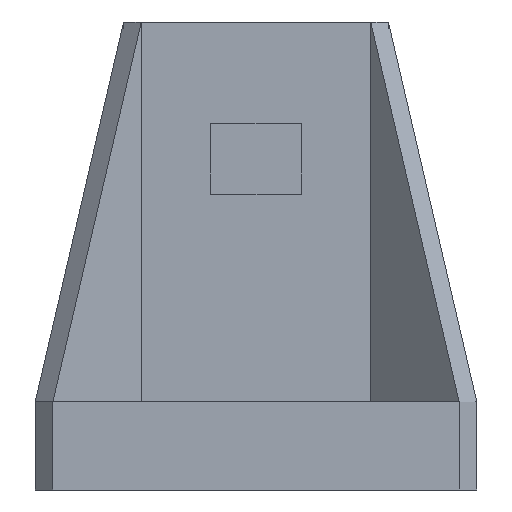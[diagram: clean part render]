
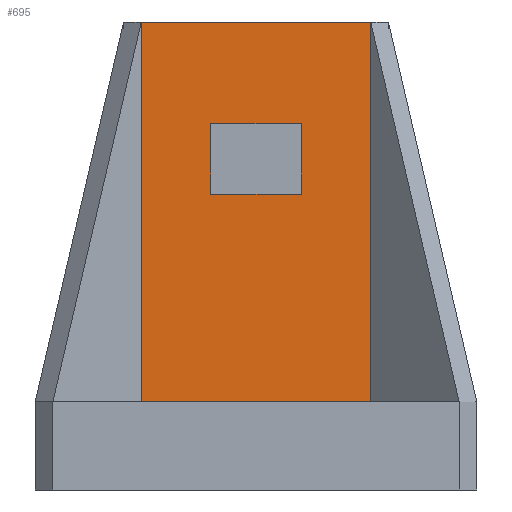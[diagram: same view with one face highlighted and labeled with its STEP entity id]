
A CAD part, front view. The second image highlights one B-rep face of the part: STEP entity #695.
In plain terms, the highlighted planar face has unit normal (0, -1, 0).
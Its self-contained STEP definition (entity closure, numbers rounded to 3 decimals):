
#299=CARTESIAN_POINT('',(12.,10.,43.));
#300=VERTEX_POINT('',#299);
#307=CARTESIAN_POINT('',(38.,10.,43.));
#308=VERTEX_POINT('',#307);
#309=CARTESIAN_POINT('',(12.,10.,43.));
#310=DIRECTION('',(1.,0.,0.));
#311=VECTOR('',#310,26.);
#312=LINE('',#309,#311);
#313=EDGE_CURVE('',#300,#308,#312,.T.);
#487=CARTESIAN_POINT('',(12.,10.,0.));
#488=VERTEX_POINT('',#487);
#495=CARTESIAN_POINT('',(12.,10.,43.));
#496=DIRECTION('',(0.,0.,-1.));
#497=VECTOR('',#496,43.);
#498=LINE('',#495,#497);
#499=EDGE_CURVE('',#300,#488,#498,.T.);
#600=CARTESIAN_POINT('',(38.,10.,0.));
#601=VERTEX_POINT('',#600);
#608=CARTESIAN_POINT('',(12.,10.,0.));
#609=DIRECTION('',(1.,0.,0.));
#610=VECTOR('',#609,26.);
#611=LINE('',#608,#610);
#612=EDGE_CURVE('',#488,#601,#611,.T.);
#637=CARTESIAN_POINT('',(18.5,10.,43.));
#638=DIRECTION('',(-0.,1.,0.));
#639=DIRECTION('',(-1.,-0.,0.));
#640=AXIS2_PLACEMENT_3D('',#637,#638,#639);
#641=PLANE('',#640);
#642=CARTESIAN_POINT('',(19.9,10.,23.5));
#643=VERTEX_POINT('',#642);
#644=CARTESIAN_POINT('',(30.1,10.,23.5));
#645=VERTEX_POINT('',#644);
#646=CARTESIAN_POINT('',(19.9,10.,23.5));
#647=DIRECTION('',(1.,0.,0.));
#648=VECTOR('',#647,10.2);
#649=LINE('',#646,#648);
#650=EDGE_CURVE('',#643,#645,#649,.T.);
#651=ORIENTED_EDGE('',*,*,#650,.F.);
#652=CARTESIAN_POINT('',(19.9,10.,31.5));
#653=VERTEX_POINT('',#652);
#654=CARTESIAN_POINT('',(19.9,10.,31.5));
#655=DIRECTION('',(0.,0.,-1.));
#656=VECTOR('',#655,8.);
#657=LINE('',#654,#656);
#658=EDGE_CURVE('',#653,#643,#657,.T.);
#659=ORIENTED_EDGE('',*,*,#658,.F.);
#660=CARTESIAN_POINT('',(30.1,10.,31.5));
#661=VERTEX_POINT('',#660);
#662=CARTESIAN_POINT('',(30.1,10.,31.5));
#663=DIRECTION('',(-1.,-0.,0.));
#664=VECTOR('',#663,10.2);
#665=LINE('',#662,#664);
#666=EDGE_CURVE('',#661,#653,#665,.T.);
#667=ORIENTED_EDGE('',*,*,#666,.F.);
#668=CARTESIAN_POINT('',(30.1,10.,23.5));
#669=DIRECTION('',(0.,0.,1.));
#670=VECTOR('',#669,8.);
#671=LINE('',#668,#670);
#672=EDGE_CURVE('',#645,#661,#671,.T.);
#673=ORIENTED_EDGE('',*,*,#672,.F.);
#674=EDGE_LOOP('',(#651,#659,#667,#673));
#675=FACE_BOUND('',#674,.T.);
#676=ORIENTED_EDGE('',*,*,#313,.F.);
#677=ORIENTED_EDGE('',*,*,#499,.T.);
#678=ORIENTED_EDGE('',*,*,#612,.T.);
#679=CARTESIAN_POINT('',(38.,10.,43.));
#680=VERTEX_POINT('',#679);
#681=CARTESIAN_POINT('',(38.,10.,43.));
#682=DIRECTION('',(0.,0.,-1.));
#683=VECTOR('',#682,43.);
#684=LINE('',#681,#683);
#685=EDGE_CURVE('',#680,#601,#684,.T.);
#686=ORIENTED_EDGE('',*,*,#685,.F.);
#687=CARTESIAN_POINT('',(38.,10.,43.));
#688=DIRECTION('',(-0.422,-0.,0.907));
#689=VECTOR('',#688,0.);
#690=LINE('',#687,#689);
#691=EDGE_CURVE('',#680,#308,#690,.T.);
#692=ORIENTED_EDGE('',*,*,#691,.T.);
#693=EDGE_LOOP('',(#676,#677,#678,#686,#692));
#694=FACE_BOUND('',#693,.T.);
#695=ADVANCED_FACE('',(#675,#694),#641,.F.);
